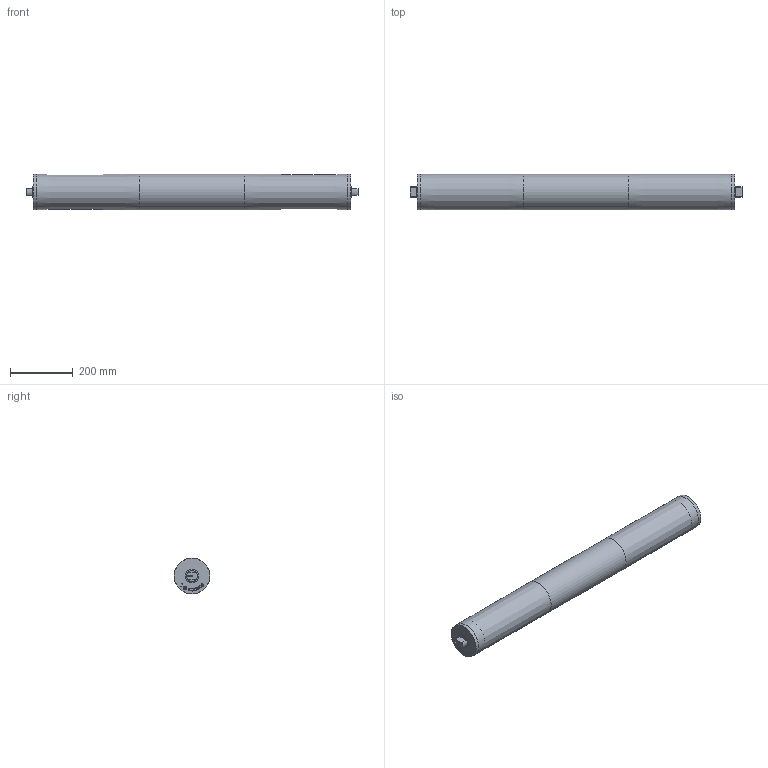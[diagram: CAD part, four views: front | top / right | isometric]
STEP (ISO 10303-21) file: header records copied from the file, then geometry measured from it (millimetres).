
FILE_DESCRIPTION(/* description */ (''),/* implementation_level */ '2;1');
FILE_NAME(/* name */ 'C:\WF_Ellegaard\Designs\00 standart komponenter\Tromlemotor\Scandrive L\Scandrive L Ø113 RL1012.stp',/* time_stamp */ '2017-06-13T18:27:17+02:00',/* author */ ('GUH'),/* organization */ (''),/* preprocessor_version */ 'ST-DEVELOPER v16.13',/* originating_system */ 'Autodesk Inventor 2018',/* authorisation */ '');
FILE_SCHEMA (('AUTOMOTIVE_DESIGN { 1 0 10303 214 3 1 1 }'));
Length unit declared in the file: millimetre
Products named in the file (1): Scandrive L Ø113 RL1012
Bounding box: 1057 x 113.5 x 113.5 mm (x, y, z)
Volume: 1430344 mm3; surface area: 736253.6 mm2
Topology: 1 solids, 2 shells, 423 faces, 1107 edges, 736 vertices
Faces by surface type: plane 237, bspline 164, cylinder 18, cone 4
Full cylindrical faces by diameter (mm): 5 x1, 35 x2, 42 x2, 44 x2, 55 x2, 100 x2, 108 x1, 112.3 x2, 112.5 x2, 113.5 x1
Entity records: 13710 total; most frequent: CARTESIAN_POINT 4392, ORIENTED_EDGE 2168, DIRECTION 1318, EDGE_CURVE 1084, VERTEX_POINT 734, LINE 710, VECTOR 710, EDGE_LOOP 492
